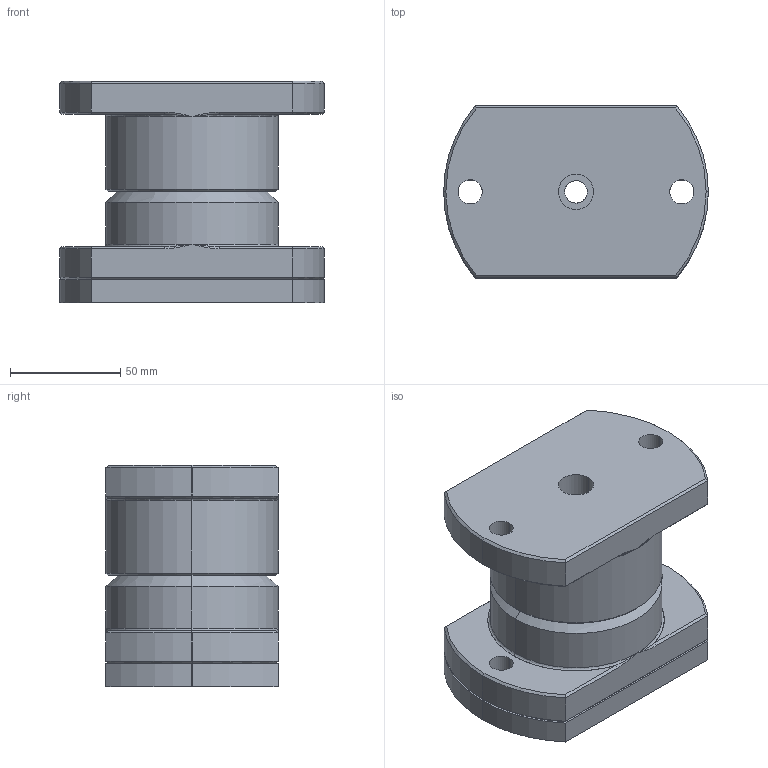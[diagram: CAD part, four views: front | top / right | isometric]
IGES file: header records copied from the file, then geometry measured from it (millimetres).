
Start section: START RECORD GO HERE.
Global section: file name: CFCCP12F.igs; native system: DASSAULT SYSTEMES CATIA V5 R20 - www.3ds.com; preprocessor: CATIA Version 5 Release 20 ; author: Utente; organization: NB04-ASUS; date: 20201027.210151; units: millimetre
Bounding box: 120 x 78 x 100.5 mm (x, y, z)
Surface area: 87740.2 mm2 (no closed solid volume)
Topology: 0 solids, 0 shells, 128 faces, 812 edges, 800 vertices
Faces by surface type: revolution 92, plane 28, bspline 8
